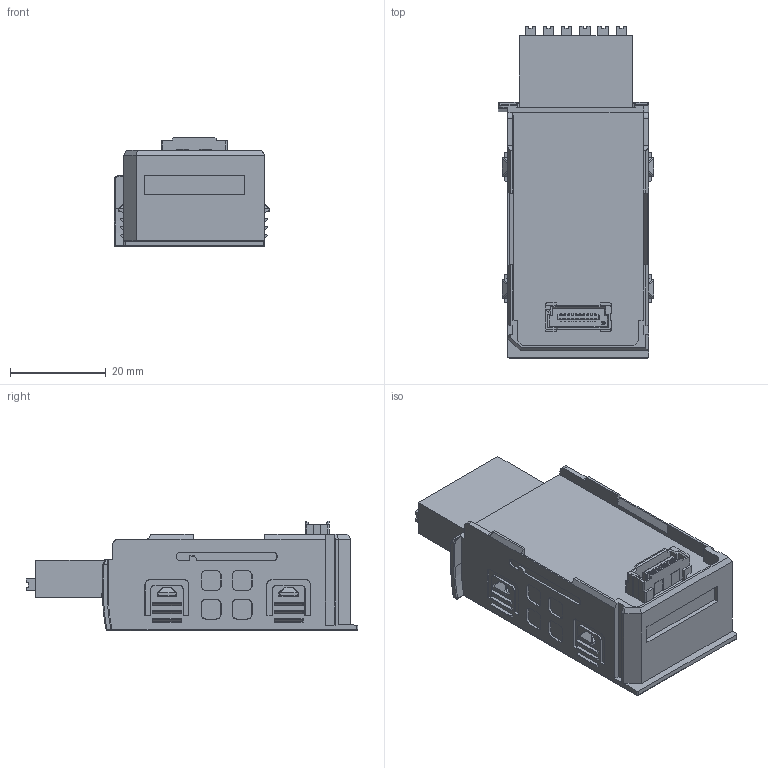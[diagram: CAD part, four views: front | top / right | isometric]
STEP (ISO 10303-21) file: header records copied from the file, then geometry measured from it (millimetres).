
FILE_DESCRIPTION((''),'2;1');
FILE_NAME('GE20-233485-RTC-WX','2022-05-24T',('10002586'),(''),'CREO PARAMETRIC BY PTC INC, 2015290','CREO PARAMETRIC BY PTC INC, 2015290','');
FILE_SCHEMA(('CONFIG_CONTROL_DESIGN'));
Length unit declared in the file: millimetre
Products named in the file (1): GE20-233485-RTC-WX
Bounding box: 32.6 x 69.5 x 22.9 mm (x, y, z)
Volume: 28868.5 mm3; surface area: 8746.3 mm2
Topology: 1 solids, 1 shells, 1257 faces, 3423 edges, 2220 vertices
Faces by surface type: plane 1080, cone 80, cylinder 60, extrusion 16, torus 10, bspline 8, sphere 3
Entity records: 49676 total; most frequent: CARTESIAN_POINT 8587, ORIENTED_EDGE 6846, DIRECTION 6093, EDGE_CURVE 3423, VECTOR 3099, LINE 3083, VERTEX_POINT 2220, AXIS2_PLACEMENT_3D 1497
